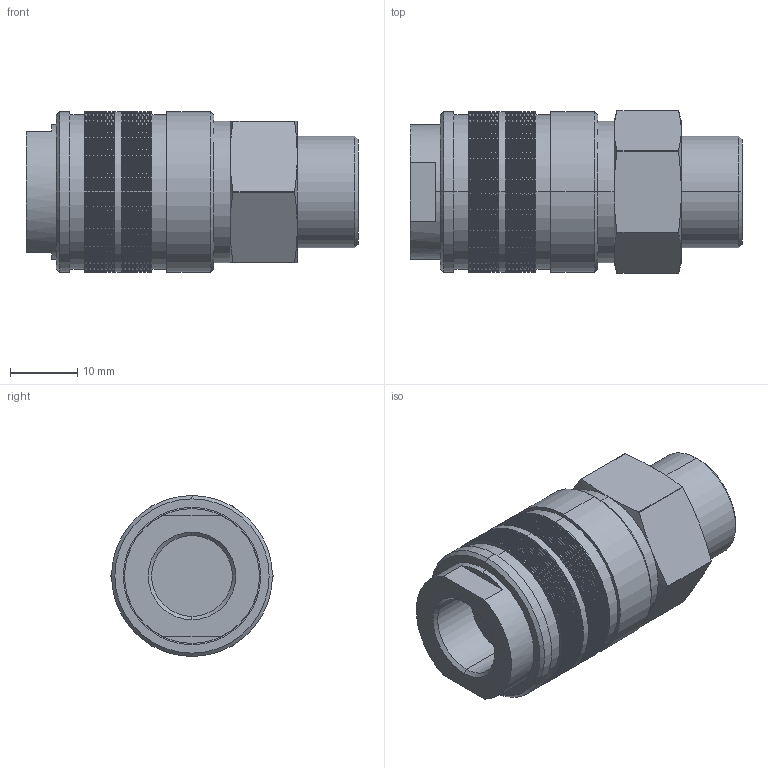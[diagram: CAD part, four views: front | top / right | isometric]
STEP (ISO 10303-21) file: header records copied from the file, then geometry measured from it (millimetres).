
FILE_DESCRIPTION (( 'STEP AP214' ), '1' );
FILE_NAME ('AU_105_0.STEP', '2016-10-14T09:31:46', ( '' ), ( '' ), 'SwSTEP 2.0', 'SolidWorks 2016', '' );
FILE_SCHEMA (( 'AUTOMOTIVE_DESIGN' ));
Length unit declared in the file: millimetre
Products named in the file (1): AU_105_0
Bounding box: 49.3 x 24.2 x 23.9 mm (x, y, z)
Volume: 16154.7 mm3; surface area: 5980.6 mm2
Topology: 1 solids, 1 shells, 427 faces, 866 edges, 452 vertices
Faces by surface type: cylinder 206, cone 198, plane 23
Entity records: 10976 total; most frequent: DIRECTION 2134, CARTESIAN_POINT 1866, ORIENTED_EDGE 1732, EDGE_CURVE 866, AXIS2_PLACEMENT_3D 864, VERTEX_POINT 452, EDGE_LOOP 438, CIRCLE 436
